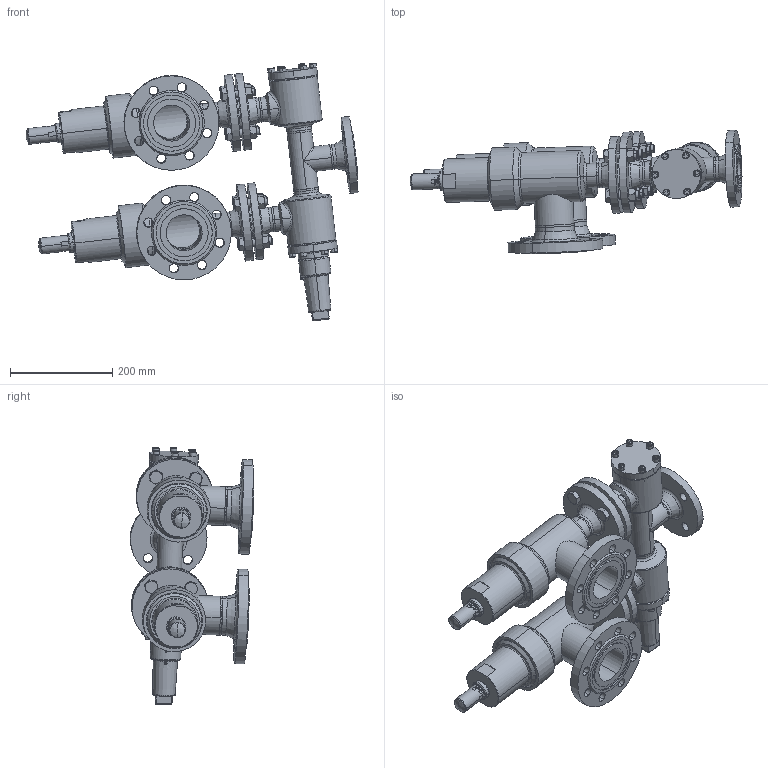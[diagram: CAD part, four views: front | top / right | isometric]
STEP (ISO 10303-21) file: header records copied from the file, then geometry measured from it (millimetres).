
FILE_DESCRIPTION (( 'STEP AP214' ), '1' );
FILE_NAME ('WVB-SVUB_1C6FL_DN40_DIN-FL_seitlich.STEP', '2010-09-09T12:15:50', ( 'Eckhard Grams' ), ( 'AWP Kälte Klima Armaturen GmbH' ), 'SwSTEP 2.0', 'SolidWorks 2002296', '' );
FILE_SCHEMA (( 'AUTOMOTIVE_DESIGN' ));
Length unit declared in the file: millimetre
Products named in the file (31): WVB-SVUB_1C6FL_DN40_DIN-FL_seitlich; WVB23020D14-DN040_DIN-FL-N-F_PS40_Standard; Geh,kpl23020E14-DN040_DIN-FL-N-F_PS40_Standard; Geh,kpl23000E14-DN040_R1_PS40_Standard; T-Stück DIN2615_DN 40; Gehäuse23000E14-DN040_R1_PS40_Standard; bead23000-14-2_Standard; bead23000-14-1_Standard; Flansch-DIN2635-Feder_PS40_DIN-Flansch-DN040_PS40-Feder; bead23020-14-3_Standard; bead23020-14-2_Standard; bead23020-14-1_Standard; AVB16300E15_Deck+Schr-DN40-50_Standard; Deckel16300E15-DN40-50_Standard; WVB-R23000E15_Deck+Schr-DN40-50_Standard; Deckel23000E15-DN40-50_Standard; Zylinderschraube-DIN912_M 8x  25; Kappe 16402-15_DN40-65 (M52x3)_Standard; SVUB 45720D14-DN40(65)_DIN; Flachdichtg-Alu-DN40; Gehkpl 45720E14-5030001; Geh 45700E14-5034004_DN40; Flansch-DIN2635-Nut_PS40_DIN-Flansch-DN040_PS40-Nut; Rohrstutzen-A 45700E13-5036004_DN40(65)_Standard; Flansch-DIN2635-Nut_PS40_DIN-Flansch-DN065_PS40-Nut; bead Geh,kpl 45720E14-1_Standard; bead Geh,kpl 45720E14-2_Standard; Haube 45700E14-5260003_DN40; Kappe SVA-SVU-ORV_DN10-40 (M27x1,5)_Standard; Sechskantschraube-DIN933_M16x 55; Sechskantmutter-DIN934_M16
Assembly tree (59 placements, depth 5):
  WVB-SVUB_1C6FL_DN40_DIN-FL_seitlich
    Sechskantschraube-DIN933_M16x 55  x8
    Sechskantmutter-DIN934_M16  x8
    WVB23020D14-DN040_DIN-FL-N-F_PS40_Standard
      AVB16300E15_Deck+Schr-DN40-50_Standard
        Zylinderschraube-DIN912_M 8x  25  x6
        Deckel16300E15-DN40-50_Standard
      Geh,kpl23020E14-DN040_DIN-FL-N-F_PS40_Standard
        Flansch-DIN2635-Nut_PS40_DIN-Flansch-DN040_PS40-Nut
        Flansch-DIN2635-Feder_PS40_DIN-Flansch-DN040_PS40-Feder  x2
        bead23020-14-3_Standard
        bead23020-14-2_Standard
        bead23020-14-1_Standard
        Geh,kpl23000E14-DN040_R1_PS40_Standard
          Gehäuse23000E14-DN040_R1_PS40_Standard  x2
          T-Stück DIN2615_DN 40
          bead23000-14-1_Standard
          bead23000-14-2_Standard
      WVB-R23000E15_Deck+Schr-DN40-50_Standard
        Zylinderschraube-DIN912_M 8x  25  x6
        Deckel23000E15-DN40-50_Standard
      Kappe 16402-15_DN40-65 (M52x3)_Standard
    SVUB 45720D14-DN40(65)_DIN  x2
      Kappe SVA-SVU-ORV_DN10-40 (M27x1,5)_Standard
      Flachdichtg-Alu-DN40
      Gehkpl 45720E14-5030001
        Flansch-DIN2635-Nut_PS40_DIN-Flansch-DN040_PS40-Nut
        Flansch-DIN2635-Nut_PS40_DIN-Flansch-DN065_PS40-Nut
        Geh 45700E14-5034004_DN40
        Rohrstutzen-A 45700E13-5036004_DN40(65)_Standard
        bead Geh,kpl 45720E14-2_Standard
        bead Geh,kpl 45720E14-1_Standard
      Haube 45700E14-5260003_DN40
Bounding box: 649.29 x 241.71 x 503.89 mm (x, y, z)
Volume: 5632226.7 mm3; surface area: 1279577.9 mm2
Topology: 60 solids, 60 shells, 1539 faces, 3549 edges, 2181 vertices
Faces by surface type: cylinder 524, plane 425, cone 415, torus 111, bspline 56, sphere 8
Entity records: 50698 total; most frequent: CARTESIAN_POINT 33698, DIRECTION 3176, ORIENTED_EDGE 2984, EDGE_CURVE 1492, AXIS2_PLACEMENT_3D 1355, VERTEX_POINT 925, EDGE_LOOP 753, CIRCLE 698
